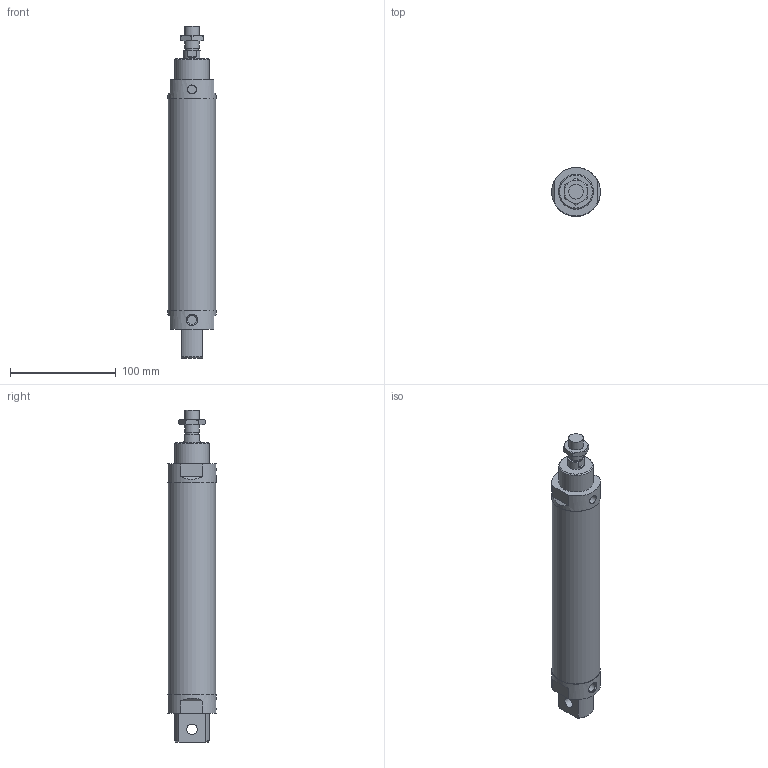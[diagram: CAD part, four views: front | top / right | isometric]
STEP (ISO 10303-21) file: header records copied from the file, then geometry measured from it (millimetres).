
FILE_DESCRIPTION((''),'2;1');
FILE_NAME('I:\3D電子目錄\氣缸\FDA\FDA\FDA\FDA40\FDA40x150.stp','2007-10-23T13:31:37',('66-2f-008'),(''),'Autodesk Inventor 11','Autodesk Inventor 11','');
FILE_SCHEMA(('AUTOMOTIVE_DESIGN { 1 0 10303 214 1 1 1 1 }'));
Length unit declared in the file: millimetre
Products named in the file (1): FDA40
Bounding box: 45.99 x 45.95 x 314 mm (x, y, z)
Volume: 413600.7 mm3; surface area: 44380.9 mm2
Topology: 1 solids, 1 shells, 62 faces, 144 edges, 95 vertices
Faces by surface type: plane 29, cone 15, cylinder 13, bspline 5
Full cylindrical faces by diameter (mm): 8.5 x2, 10 x1, 12 x1, 14 x2, 16 x1, 33 x1, 45 x1, 46 x2
Entity records: 1911 total; most frequent: CARTESIAN_POINT 620, DIRECTION 256, ORIENTED_EDGE 250, EDGE_CURVE 125, AXIS2_PLACEMENT_3D 106, VERTEX_POINT 88, EDGE_LOOP 87, FACE_OUTER_BOUND 62
